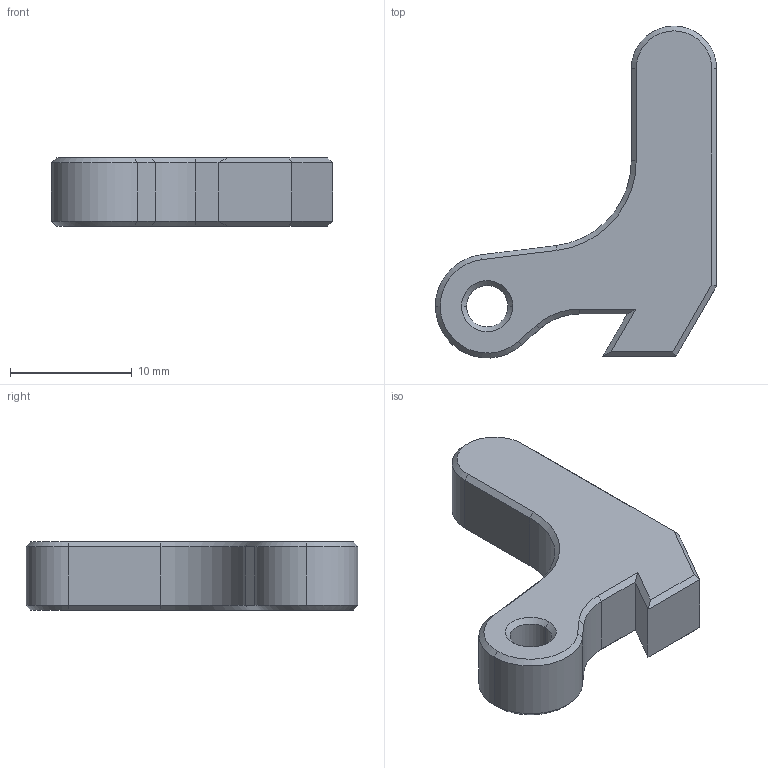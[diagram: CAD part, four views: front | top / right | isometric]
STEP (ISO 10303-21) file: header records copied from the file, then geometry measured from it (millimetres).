
FILE_DESCRIPTION (( 'STEP AP203' ), '1' );
FILE_NAME ('feeder_latch.STEP', '2014-11-19T22:46:45', ( 'Robban' ), ( '' ), 'SwSTEP 2.0', 'SolidWorks 2013', '' );
FILE_SCHEMA (( 'CONFIG_CONTROL_DESIGN' ));
Length unit declared in the file: millimetre
Products named in the file (1): feeder_latch
Bounding box: 23.08 x 27.24 x 5.6 mm (x, y, z)
Volume: 1589.2 mm3; surface area: 1115.5 mm2
Topology: 1 solids, 1 shells, 46 faces, 103 edges, 59 vertices
Faces by surface type: plane 26, cone 13, cylinder 7
Entity records: 1323 total; most frequent: DIRECTION 224, CARTESIAN_POINT 209, ORIENTED_EDGE 206, EDGE_CURVE 103, VECTOR 76, LINE 76, AXIS2_PLACEMENT_3D 74, VERTEX_POINT 59
